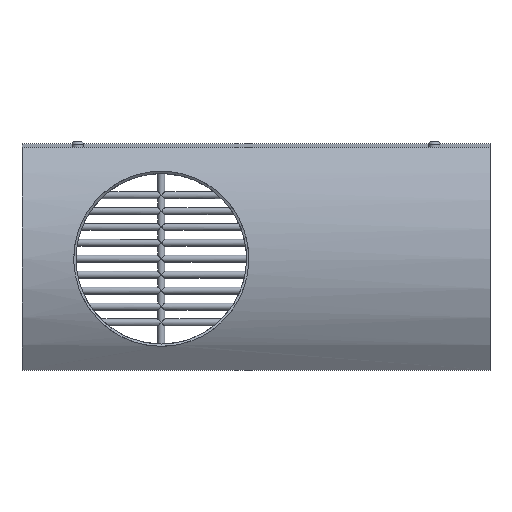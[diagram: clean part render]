
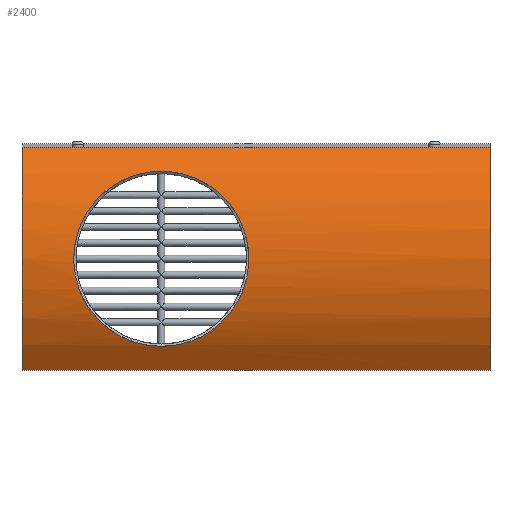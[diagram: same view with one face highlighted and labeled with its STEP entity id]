
A CAD part, front view. The second image highlights one B-rep face of the part: STEP entity #2400.
In plain terms, the highlighted cylindrical face has radius 166.667 mm (diameter 333.333 mm), a partial arc.
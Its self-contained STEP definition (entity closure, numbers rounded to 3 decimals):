
#50=LINE('',#5218,#123);
#67=LINE('',#5484,#140);
#123=VECTOR('',#3259,10.);
#140=VECTOR('',#3498,10.);
#252=CIRCLE('',#2757,166.667);
#253=CIRCLE('',#2758,166.667);
#326=FACE_BOUND('',#754,.T.);
#387=B_SPLINE_CURVE_WITH_KNOTS('',3,(#4657,#4658,#4659,#4660,#4661,#4662,
#4663,#4664,#4665,#4666,#4667,#4668,#4669,#4670,#4671,#4672,#4673,#4674,
#4675,#4676,#4677,#4678,#4679,#4680,#4681,#4682,#4683,#4684,#4685,#4686,
#4687,#4688,#4689,#4690,#4691,#4692,#4693,#4694,#4695,#4696,#4697,#4698,
#4699,#4700,#4701,#4702,#4703,#4704,#4705,#4706,#4707,#4708,#4709,#4710,
#4711,#4712,#4713,#4714,#4715,#4716,#4717,#4718,#4719,#4720,#4721,#4722),
 .UNSPECIFIED.,.T.,.F.,(4,2,2,2,2,2,2,2,2,2,2,2,2,2,2,2,2,2,2,2,2,2,2,2,
2,2,2,2,2,2,2,2,4),(0.,1.506,3.013,4.519,
6.026,7.529,9.032,10.536,12.039,
13.542,15.046,16.549,18.052,19.559,
21.065,22.572,24.078,25.584,27.091,
28.597,30.104,31.607,33.11,34.614,
36.117,37.62,39.124,40.627,42.13,
43.637,45.143,46.65,48.156),
 .UNSPECIFIED.);
#533=FACE_OUTER_BOUND('',#753,.T.);
#753=EDGE_LOOP('',(#2058,#2059,#2060,#2061));
#754=EDGE_LOOP('',(#2062));
#972=VERTEX_POINT('',#4656);
#1051=VERTEX_POINT('',#5216);
#1052=VERTEX_POINT('',#5217);
#1087=VERTEX_POINT('',#5482);
#1088=VERTEX_POINT('',#5483);
#1194=EDGE_CURVE('',#972,#972,#387,.T.);
#1325=EDGE_CURVE('',#1051,#1052,#50,.T.);
#1414=EDGE_CURVE('',#1087,#1088,#67,.T.);
#1415=EDGE_CURVE('',#1051,#1088,#252,.T.);
#1416=EDGE_CURVE('',#1087,#1052,#253,.T.);
#2058=ORIENTED_EDGE('',*,*,#1414,.T.);
#2059=ORIENTED_EDGE('',*,*,#1415,.F.);
#2060=ORIENTED_EDGE('',*,*,#1325,.T.);
#2061=ORIENTED_EDGE('',*,*,#1416,.F.);
#2062=ORIENTED_EDGE('',*,*,#1194,.T.);
#2263=CYLINDRICAL_SURFACE('',#2756,166.667);
#2400=ADVANCED_FACE('',(#533,#326),#2263,.T.);
#2756=AXIS2_PLACEMENT_3D('',#5481,#3496,#3497);
#2757=AXIS2_PLACEMENT_3D('',#5485,#3499,#3500);
#2758=AXIS2_PLACEMENT_3D('',#5486,#3501,#3502);
#3259=DIRECTION('',(-1.,0.,0.));
#3496=DIRECTION('center_axis',(1.,0.,0.));
#3497=DIRECTION('ref_axis',(0.,-0.8,0.6));
#3498=DIRECTION('',(1.,0.,0.));
#3499=DIRECTION('center_axis',(1.,0.,0.));
#3500=DIRECTION('ref_axis',(0.,-0.8,0.6));
#3501=DIRECTION('center_axis',(-1.,0.,0.));
#3502=DIRECTION('ref_axis',(0.,-0.8,0.6));
#4656=CARTESIAN_POINT('',(-85.,-13.689,-78.5));
#4657=CARTESIAN_POINT('Ctrl Pts',(-85.,-13.689,-78.5));
#4658=CARTESIAN_POINT('Ctrl Pts',(-90.021,-13.689,-78.5));
#4659=CARTESIAN_POINT('Ctrl Pts',(-95.183,-13.954,-78.011));
#4660=CARTESIAN_POINT('Ctrl Pts',(-105.392,-15.009,-75.984));
#4661=CARTESIAN_POINT('Ctrl Pts',(-110.44,-15.799,-74.447));
#4662=CARTESIAN_POINT('Ctrl Pts',(-120.08,-17.742,-70.42));
#4663=CARTESIAN_POINT('Ctrl Pts',(-124.68,-18.895,-67.927));
#4664=CARTESIAN_POINT('Ctrl Pts',(-133.171,-21.326,-62.193));
#4665=CARTESIAN_POINT('Ctrl Pts',(-137.063,-22.602,-58.953));
#4666=CARTESIAN_POINT('Ctrl Pts',(-143.946,-25.033,-52.07));
#4667=CARTESIAN_POINT('Ctrl Pts',(-147.185,-26.278,-48.182));
#4668=CARTESIAN_POINT('Ctrl Pts',(-152.921,-28.599,-39.689));
#4669=CARTESIAN_POINT('Ctrl Pts',(-155.418,-29.673,-35.084));
#4670=CARTESIAN_POINT('Ctrl Pts',(-159.449,-31.454,-25.434));
#4671=CARTESIAN_POINT('Ctrl Pts',(-160.987,-32.162,-20.38));
#4672=CARTESIAN_POINT('Ctrl Pts',(-163.012,-33.102,-10.169));
#4673=CARTESIAN_POINT('Ctrl Pts',(-163.5,-33.333,-5.011));
#4674=CARTESIAN_POINT('Ctrl Pts',(-163.5,-33.333,5.011));
#4675=CARTESIAN_POINT('Ctrl Pts',(-163.012,-33.102,10.169));
#4676=CARTESIAN_POINT('Ctrl Pts',(-160.987,-32.162,20.38));
#4677=CARTESIAN_POINT('Ctrl Pts',(-159.449,-31.454,25.434));
#4678=CARTESIAN_POINT('Ctrl Pts',(-155.418,-29.673,35.084));
#4679=CARTESIAN_POINT('Ctrl Pts',(-152.921,-28.599,39.689));
#4680=CARTESIAN_POINT('Ctrl Pts',(-147.185,-26.278,48.182));
#4681=CARTESIAN_POINT('Ctrl Pts',(-143.946,-25.033,52.07));
#4682=CARTESIAN_POINT('Ctrl Pts',(-137.063,-22.602,58.953));
#4683=CARTESIAN_POINT('Ctrl Pts',(-133.171,-21.326,62.193));
#4684=CARTESIAN_POINT('Ctrl Pts',(-124.68,-18.895,67.927));
#4685=CARTESIAN_POINT('Ctrl Pts',(-120.08,-17.742,70.42));
#4686=CARTESIAN_POINT('Ctrl Pts',(-110.44,-15.799,74.447));
#4687=CARTESIAN_POINT('Ctrl Pts',(-105.392,-15.009,75.984));
#4688=CARTESIAN_POINT('Ctrl Pts',(-95.183,-13.954,78.011));
#4689=CARTESIAN_POINT('Ctrl Pts',(-90.021,-13.689,78.5));
#4690=CARTESIAN_POINT('Ctrl Pts',(-79.979,-13.689,78.5));
#4691=CARTESIAN_POINT('Ctrl Pts',(-74.817,-13.954,78.011));
#4692=CARTESIAN_POINT('Ctrl Pts',(-64.608,-15.009,75.984));
#4693=CARTESIAN_POINT('Ctrl Pts',(-59.56,-15.799,74.447));
#4694=CARTESIAN_POINT('Ctrl Pts',(-49.92,-17.742,70.42));
#4695=CARTESIAN_POINT('Ctrl Pts',(-45.32,-18.895,67.927));
#4696=CARTESIAN_POINT('Ctrl Pts',(-36.829,-21.326,62.193));
#4697=CARTESIAN_POINT('Ctrl Pts',(-32.937,-22.602,58.953));
#4698=CARTESIAN_POINT('Ctrl Pts',(-26.054,-25.033,52.07));
#4699=CARTESIAN_POINT('Ctrl Pts',(-22.815,-26.278,48.182));
#4700=CARTESIAN_POINT('Ctrl Pts',(-17.079,-28.599,39.689));
#4701=CARTESIAN_POINT('Ctrl Pts',(-14.582,-29.673,35.084));
#4702=CARTESIAN_POINT('Ctrl Pts',(-10.551,-31.454,25.434));
#4703=CARTESIAN_POINT('Ctrl Pts',(-9.013,-32.162,20.38));
#4704=CARTESIAN_POINT('Ctrl Pts',(-6.988,-33.102,10.169));
#4705=CARTESIAN_POINT('Ctrl Pts',(-6.5,-33.333,5.011));
#4706=CARTESIAN_POINT('Ctrl Pts',(-6.5,-33.333,-5.011));
#4707=CARTESIAN_POINT('Ctrl Pts',(-6.988,-33.102,-10.169));
#4708=CARTESIAN_POINT('Ctrl Pts',(-9.013,-32.162,-20.38));
#4709=CARTESIAN_POINT('Ctrl Pts',(-10.551,-31.454,-25.434));
#4710=CARTESIAN_POINT('Ctrl Pts',(-14.582,-29.673,-35.084));
#4711=CARTESIAN_POINT('Ctrl Pts',(-17.079,-28.599,-39.689));
#4712=CARTESIAN_POINT('Ctrl Pts',(-22.815,-26.278,-48.182));
#4713=CARTESIAN_POINT('Ctrl Pts',(-26.054,-25.033,-52.07));
#4714=CARTESIAN_POINT('Ctrl Pts',(-32.937,-22.602,-58.953));
#4715=CARTESIAN_POINT('Ctrl Pts',(-36.829,-21.326,-62.193));
#4716=CARTESIAN_POINT('Ctrl Pts',(-45.32,-18.895,-67.927));
#4717=CARTESIAN_POINT('Ctrl Pts',(-49.92,-17.742,-70.42));
#4718=CARTESIAN_POINT('Ctrl Pts',(-59.56,-15.799,-74.447));
#4719=CARTESIAN_POINT('Ctrl Pts',(-64.608,-15.009,-75.984));
#4720=CARTESIAN_POINT('Ctrl Pts',(-74.817,-13.954,-78.011));
#4721=CARTESIAN_POINT('Ctrl Pts',(-79.979,-13.689,-78.5));
#4722=CARTESIAN_POINT('Ctrl Pts',(-85.,-13.689,-78.5));
#5216=CARTESIAN_POINT('',(210.,0.,100.));
#5217=CARTESIAN_POINT('',(-210.,0.,100.));
#5218=CARTESIAN_POINT('',(0.,0.,100.));
#5481=CARTESIAN_POINT('Origin',(0.,133.333,0.));
#5482=CARTESIAN_POINT('',(-210.,0.,-100.));
#5483=CARTESIAN_POINT('',(210.,0.,-100.));
#5484=CARTESIAN_POINT('',(0.,0.,-100.));
#5485=CARTESIAN_POINT('Origin',(210.,133.333,0.));
#5486=CARTESIAN_POINT('Origin',(-210.,133.333,0.));
